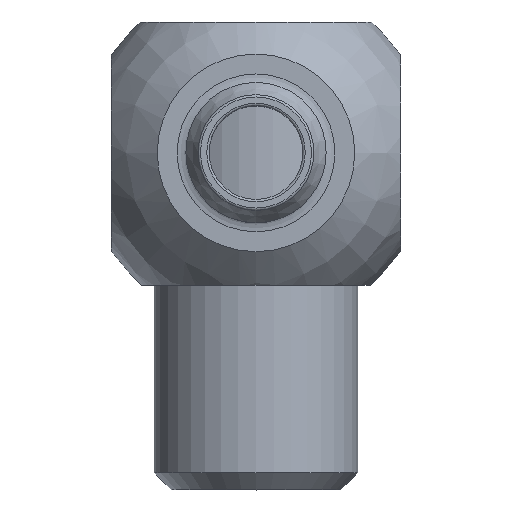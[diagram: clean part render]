
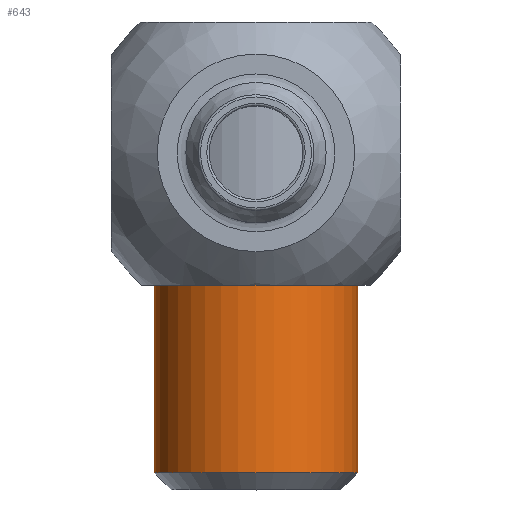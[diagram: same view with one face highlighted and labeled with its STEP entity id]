
A CAD part, top view. The second image highlights one B-rep face of the part: STEP entity #643.
In plain terms, the highlighted cylindrical face has radius 11.048 mm (diameter 22.095 mm), a full revolution.
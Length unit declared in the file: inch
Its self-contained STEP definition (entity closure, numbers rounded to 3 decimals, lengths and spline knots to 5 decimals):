
#67=CYLINDRICAL_SURFACE('',#699,0.43495);
#79=FACE_OUTER_BOUND('',#116,.T.);
#116=EDGE_LOOP('',(#453,#454,#455,#456,#457));
#165=LINE('',#1009,#199);
#199=VECTOR('',#798,0.4375);
#233=CIRCLE('',#697,0.43495);
#234=CIRCLE('',#698,0.43495);
#235=CIRCLE('',#700,0.43495);
#284=VERTEX_POINT('',#1002);
#285=VERTEX_POINT('',#1004);
#286=VERTEX_POINT('',#1008);
#355=EDGE_CURVE('',#284,#285,#233,.F.);
#356=EDGE_CURVE('',#285,#284,#234,.F.);
#357=EDGE_CURVE('',#285,#286,#165,.T.);
#358=EDGE_CURVE('',#286,#286,#235,.T.);
#453=ORIENTED_EDGE('',*,*,#356,.F.);
#454=ORIENTED_EDGE('',*,*,#357,.T.);
#455=ORIENTED_EDGE('',*,*,#358,.T.);
#456=ORIENTED_EDGE('',*,*,#357,.F.);
#457=ORIENTED_EDGE('',*,*,#355,.F.);
#643=ADVANCED_FACE('',(#79),#67,.T.);
#697=AXIS2_PLACEMENT_3D('',#1005,#792,#793);
#698=AXIS2_PLACEMENT_3D('',#1006,#794,#795);
#699=AXIS2_PLACEMENT_3D('',#1007,#796,#797);
#700=AXIS2_PLACEMENT_3D('',#1010,#799,#800);
#792=DIRECTION('center_axis',(0.,1.,0.));
#793=DIRECTION('ref_axis',(0.,0.,-1.));
#794=DIRECTION('center_axis',(0.,1.,0.));
#795=DIRECTION('ref_axis',(0.,0.,-1.));
#796=DIRECTION('center_axis',(0.,-1.,0.));
#797=DIRECTION('ref_axis',(0.,0.,-1.));
#798=DIRECTION('',(0.,1.,0.));
#799=DIRECTION('center_axis',(0.,-1.,0.));
#800=DIRECTION('ref_axis',(0.,0.,-1.));
#1002=CARTESIAN_POINT('',(0.,-0.80255,-0.43495));
#1004=CARTESIAN_POINT('',(0.,-0.80255,0.43495));
#1005=CARTESIAN_POINT('Origin',(0.,-0.80255,0.));
#1006=CARTESIAN_POINT('Origin',(0.,-0.80255,0.));
#1007=CARTESIAN_POINT('Origin',(0.,-0.4375,0.));
#1008=CARTESIAN_POINT('',(0.,0.,0.43495));
#1009=CARTESIAN_POINT('',(0.,-0.4375,0.43495));
#1010=CARTESIAN_POINT('Origin',(0.,0.,0.));
